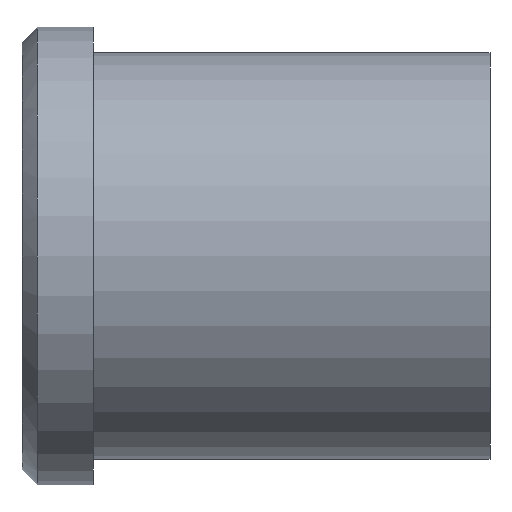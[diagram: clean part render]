
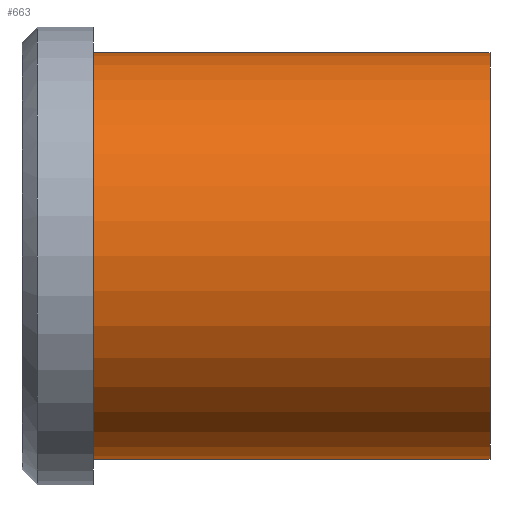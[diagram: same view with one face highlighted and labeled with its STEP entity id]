
A CAD part, front view. The second image highlights one B-rep face of the part: STEP entity #663.
In plain terms, the highlighted cylindrical face has radius 20 mm (diameter 40 mm), a partial arc.
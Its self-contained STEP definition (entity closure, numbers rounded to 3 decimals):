
#501=CARTESIAN_POINT('Vertex',(0.,0.,-20.)) ;
#506=CARTESIAN_POINT('Axis2P3D Location',(0.,0.,0.)) ;
#510=CARTESIAN_POINT('Vertex',(0.,-20.,0.)) ;
#513=CARTESIAN_POINT('Axis2P3D Location',(0.,0.,0.)) ;
#517=CARTESIAN_POINT('Vertex',(0.,0.,20.)) ;
#603=CARTESIAN_POINT('Line Origine',(39.,0.,20.)) ;
#607=CARTESIAN_POINT('Vertex',(39.,0.,20.)) ;
#621=CARTESIAN_POINT('Vertex',(39.,0.,-20.)) ;
#624=CARTESIAN_POINT('Line Origine',(39.,0.,-20.)) ;
#638=CARTESIAN_POINT('Axis2P3D Location',(39.,0.,0.)) ;
#643=CARTESIAN_POINT('Axis2P3D Location',(39.,0.,0.)) ;
#647=CARTESIAN_POINT('Vertex',(39.,-20.,0.)) ;
#650=CARTESIAN_POINT('Axis2P3D Location',(39.,0.,0.)) ;
#507=DIRECTION('Axis2P3D Direction',(1.,0.,-0.)) ;
#514=DIRECTION('Axis2P3D Direction',(1.,0.,-0.)) ;
#604=DIRECTION('Vector Direction',(-1.,0.,0.)) ;
#625=DIRECTION('Vector Direction',(-1.,0.,0.)) ;
#639=DIRECTION('Axis2P3D Direction',(-1.,-0.,-0.)) ;
#640=DIRECTION('Axis2P3D XDirection',(0.,0.,-1.)) ;
#644=DIRECTION('Axis2P3D Direction',(-1.,-0.,-0.)) ;
#651=DIRECTION('Axis2P3D Direction',(-1.,-0.,-0.)) ;
#508=AXIS2_PLACEMENT_3D('Circle Axis2P3D',#506,#507,$) ;
#515=AXIS2_PLACEMENT_3D('Circle Axis2P3D',#513,#514,$) ;
#641=AXIS2_PLACEMENT_3D('Cylinder Axis2P3D',#638,#639,#640) ;
#645=AXIS2_PLACEMENT_3D('Circle Axis2P3D',#643,#644,$) ;
#652=AXIS2_PLACEMENT_3D('Circle Axis2P3D',#650,#651,$) ;
#656=ORIENTED_EDGE('',*,*,#628,.T.) ;
#657=ORIENTED_EDGE('',*,*,#649,.F.) ;
#658=ORIENTED_EDGE('',*,*,#654,.F.) ;
#659=ORIENTED_EDGE('',*,*,#609,.T.) ;
#660=ORIENTED_EDGE('',*,*,#519,.T.) ;
#661=ORIENTED_EDGE('',*,*,#512,.T.) ;
#605=VECTOR('Line Direction',#604,1.) ;
#626=VECTOR('Line Direction',#625,1.) ;
#663=ADVANCED_FACE('353-32X46',(#662),#642,.T.) ;
#509=CIRCLE('generated circle',#508,20.) ;
#516=CIRCLE('generated circle',#515,20.) ;
#646=CIRCLE('generated circle',#645,20.) ;
#653=CIRCLE('generated circle',#652,20.) ;
#642=CYLINDRICAL_SURFACE('generated cylinder',#641,20.) ;
#512=EDGE_CURVE('',#511,#502,#509,.T.) ;
#519=EDGE_CURVE('',#518,#511,#516,.T.) ;
#609=EDGE_CURVE('',#608,#518,#606,.T.) ;
#628=EDGE_CURVE('',#502,#622,#627,.F.) ;
#649=EDGE_CURVE('',#648,#622,#646,.F.) ;
#654=EDGE_CURVE('',#608,#648,#653,.F.) ;
#655=EDGE_LOOP('',(#656,#657,#658,#659,#660,#661)) ;
#662=FACE_OUTER_BOUND('',#655,.T.) ;
#606=LINE('Line',#603,#605) ;
#627=LINE('Line',#624,#626) ;
#502=VERTEX_POINT('',#501) ;
#511=VERTEX_POINT('',#510) ;
#518=VERTEX_POINT('',#517) ;
#608=VERTEX_POINT('',#607) ;
#622=VERTEX_POINT('',#621) ;
#648=VERTEX_POINT('',#647) ;
